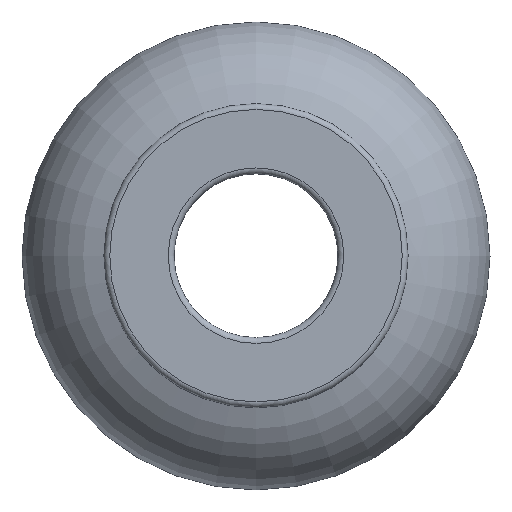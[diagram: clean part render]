
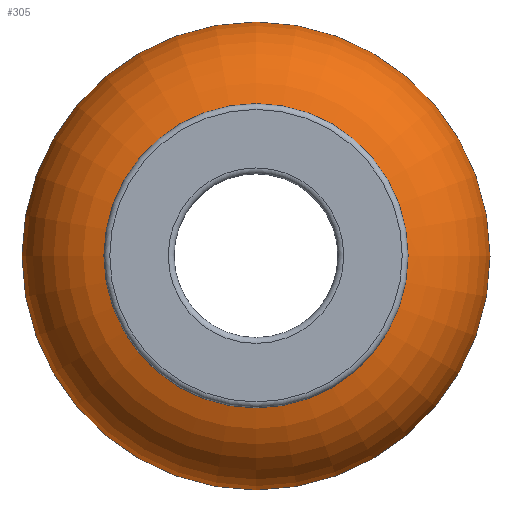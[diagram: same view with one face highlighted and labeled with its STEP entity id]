
A CAD part, top view. The second image highlights one B-rep face of the part: STEP entity #305.
In plain terms, the highlighted toroidal (fillet/blend) face has major radius 10.784 mm and minor radius 9.3 mm.
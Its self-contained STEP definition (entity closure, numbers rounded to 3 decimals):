
#305 = ADVANCED_FACE( '', ( #709, #710 ), #711, .T. );
#709 = FACE_OUTER_BOUND( '', #1220, .T. );
#710 = FACE_OUTER_BOUND( '', #1221, .T. );
#711 = TOROIDAL_SURFACE( '', #1222, 10.784, 9.3 );
#1220 = EDGE_LOOP( '', ( #2105 ) );
#1221 = EDGE_LOOP( '', ( #2106 ) );
#1222 = AXIS2_PLACEMENT_3D( '', #2107, #2108, #2109 );
#2105 = ORIENTED_EDGE( '', *, *, #3366, .F. );
#2106 = ORIENTED_EDGE( '', *, *, #3367, .T. );
#2107 = CARTESIAN_POINT( '', ( 0., 0., -8.251 ) );
#2108 = DIRECTION( '', ( 0., 0., 1. ) );
#2109 = DIRECTION( '', ( 1., 0., 0. ) );
#3366 = EDGE_CURVE( '', #4141, #4141, #4142, .T. );
#3367 = EDGE_CURVE( '', #4143, #4143, #4144, .T. );
#4141 = VERTEX_POINT( '', #5413 );
#4142 = CIRCLE( '', #5414, 13. );
#4143 = VERTEX_POINT( '', #5415 );
#4144 = CIRCLE( '', #5416, 20. );
#5413 = CARTESIAN_POINT( '', ( 13., 0., 0.782 ) );
#5414 = AXIS2_PLACEMENT_3D( '', #6338, #6339, #6340 );
#5415 = CARTESIAN_POINT( '', ( 20., 0., -7. ) );
#5416 = AXIS2_PLACEMENT_3D( '', #6341, #6342, #6343 );
#6338 = CARTESIAN_POINT( '', ( 0., 0., 0.782 ) );
#6339 = DIRECTION( '', ( 0., 0., 1. ) );
#6340 = DIRECTION( '', ( 1., 0., 0. ) );
#6341 = CARTESIAN_POINT( '', ( 0., 0., -7. ) );
#6342 = DIRECTION( '', ( 0., 0., 1. ) );
#6343 = DIRECTION( '', ( 1., 0., 0. ) );
